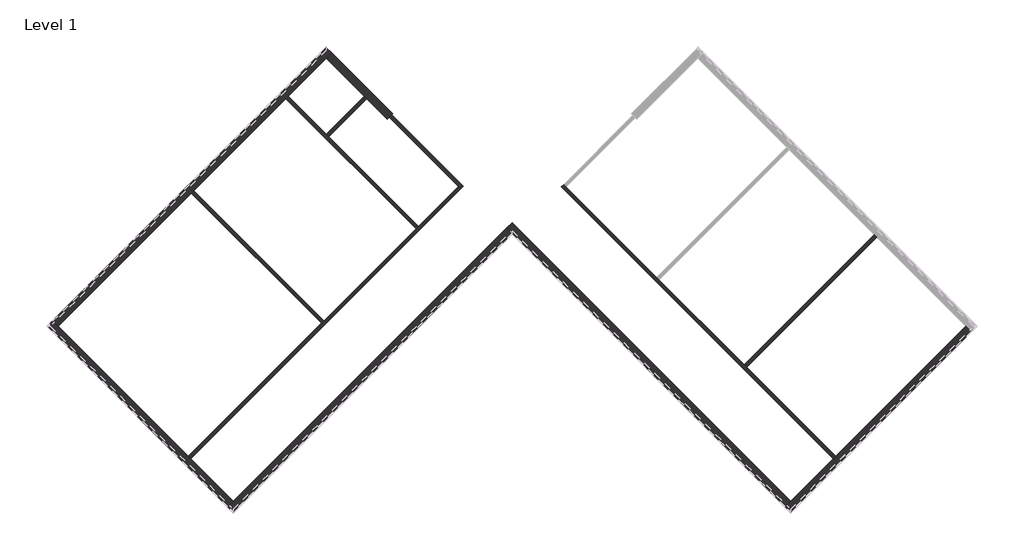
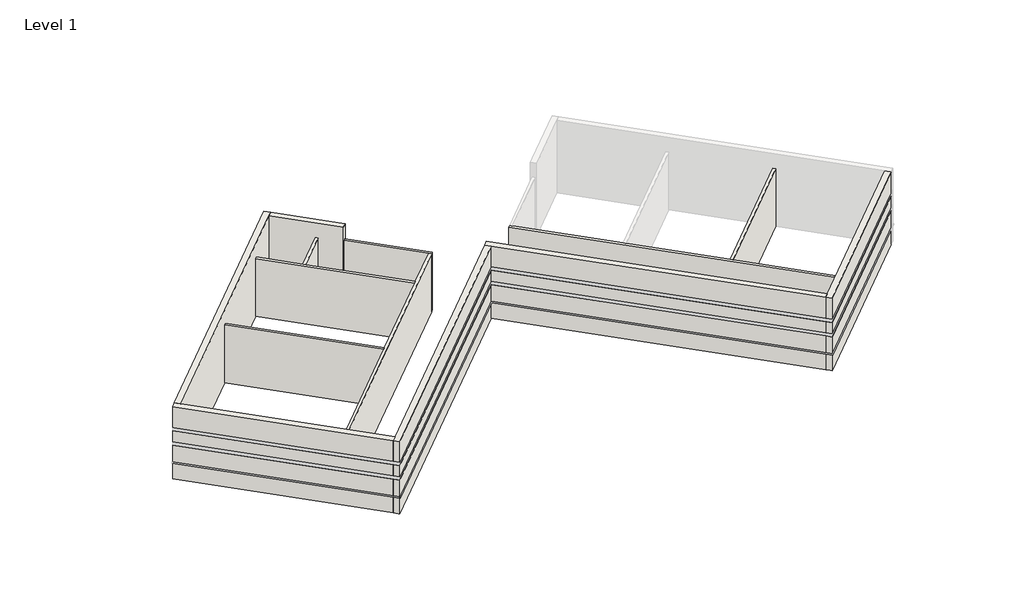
# One storey, part 1 of 2: 13 walls.
"""IFC4 building model written with IfcOpenShell, lengths in millimetres."""

from ifc_helpers import new_model, si_unit, frame, origin, origin_with_axes, place, context, project, spatial, polyline, circle_curve, outline, extrude, faceted_brep, element, save
from ifc_brep_helpers import plane_surface, cylinder_surface, revolved_surface, advanced_brep

model = new_model("IFC4")

# Units and contexts
model_context = context("Model", 3, world=origin())
ifc_project = project(units=[si_unit("LENGTHUNIT", "METRE", prefix="MILLI")], contexts=[model_context])

# Site, building, storey
site = spatial("IfcSite", under=ifc_project)
building = spatial("IfcBuilding", under=site)
storey = spatial("IfcBuildingStorey", under=building, Name="Level 1", Elevation=0.0)

# Walls
placement = place(None, origin())
element("IfcWall", 1, ObjectType="Exterior - Split Face and CMU on Mtl. Stud", at=placement, inside=storey, context=model_context, shape_type="Brep", body=[
    faceted_brep([(18186.1821115, -1357.9895101, 0.0), (12149.2049342, -7394.9666875, 0.0), (12039.1967967, -7504.974825, 0.0), (10063.54045, -9480.6311716, 0.0), (9814.3383427, -9729.833279, 0.0), (9814.3383427, -9729.833279, 1016.0), (9879.4451996, -9664.7264221, 1016.0), (9879.4451996, -9664.7264221, 1085.85), (9814.3383427, -9729.833279, 1085.85), (9814.3383427, -9729.833279, 2133.6), (9879.4451996, -9664.7264221, 2133.6), (9879.4451996, -9664.7264221, 2336.8), (9814.3383427, -9729.833279, 2336.8), (9814.3383427, -9729.833279, 3048.0), (9879.4451996, -9664.7264221, 3048.0), (9879.4451996, -9664.7264221, 3251.2), (9814.3383427, -9729.833279, 3251.2), (9814.3383427, -9729.833279, 4572.0), (10063.54045, -9480.6311716, 4572.0), (18186.1821115, -1357.9895101, 4572.0), (18435.3842189, -1607.1916175, 4572.0), (10063.54045, -9979.0353863, 4572.0), (10063.54045, -9979.0353863, 3251.2), (18435.3842189, -1607.1916175, 3251.2), (10063.54045, -9979.0353863, 0.0), (18435.3842189, -1607.1916175, 0.0), (18435.3842189, -1607.1916175, 1016.0), (10063.54045, -9979.0353863, 1016.0), (10063.54045, -9979.0353863, 1085.85), (18435.3842189, -1607.1916175, 1085.85), (18435.3842189, -1607.1916175, 2133.6), (10063.54045, -9979.0353863, 2133.6), (10063.54045, -9979.0353863, 2336.8), (18435.3842189, -1607.1916175, 2336.8), (18435.3842189, -1607.1916175, 3048.0), (10063.54045, -9979.0353863, 3048.0), (9998.4335932, -9913.9285294, 0.0), (18370.277362, -1542.0847606, 3251.2), (18370.277362, -1542.0847606, 3048.0), (18370.277362, -1542.0847606, 2336.8), (18370.277362, -1542.0847606, 2133.6), (18370.277362, -1542.0847606, 1085.85), (18370.277362, -1542.0847606, 1016.0), (18370.277362, -1542.0847606, 0.0), (10063.54045, -9848.8216726, 1085.85), (10063.54045, -9848.8216726, 1016.0), (10063.54045, -9848.8216726, 2133.6), (10063.54045, -9848.8216726, 2336.8), (10063.54045, -9848.8216726, 3048.0), (10063.54045, -9848.8216726, 3251.2)], [[[0, 1, 2, 3, 4, 5, 6, 7, 8, 9, 10, 11, 12, 13, 14, 15, 16, 17, 18, 19]], [[20, 21, 22, 23]], [[24, 25, 26, 27]], [[28, 29, 30, 31]], [[32, 33, 34, 35]], [[19, 18, 17, 21, 20]], [[21, 17, 16, 22]], [[4, 36, 24, 27, 5]], [[8, 28, 31, 9]], [[12, 32, 35, 13]], [[0, 19, 20, 23, 37, 38, 34, 33, 39, 40, 30, 29, 41, 42, 26, 25, 43]], [[4, 3, 2, 1, 0, 43, 36]], [[43, 25, 24, 36]], [[7, 44, 41, 29, 28, 8]], [[42, 45, 6, 5, 27, 26]], [[44, 45, 42, 41]], [[45, 44, 7, 6]], [[40, 46, 10, 9, 31, 30]], [[11, 47, 39, 33, 32, 12]], [[47, 46, 40, 39]], [[46, 47, 11, 10]], [[38, 48, 14, 13, 35, 34]], [[15, 49, 37, 23, 22, 16]], [[49, 48, 38, 37]], [[48, 49, 15, 14]]]),
])
element("IfcWall", 2, ObjectType="Exterior - Split Face and CMU on Mtl. Stud", at=placement, inside=storey, context=model_context, shape_type="Brep", body=[
    faceted_brep([(10063.54045, -9480.6311716, 0.0), (-2868.0283643, 3450.9376427, 0.0), (-2868.0283643, 3450.9376427, 4572.0), (10063.54045, -9480.6311716, 4572.0), (9814.3383427, -9729.833279, 4572.0), (-2868.0283643, 2952.533428, 4572.0), (-3117.2304717, 3201.7355354, 4572.0), (-3117.2304717, 3201.7355354, 0.0), (-2868.0283643, 2952.533428, 0.0), (9814.3383427, -9729.833279, 0.0), (9814.3383427, -9729.833279, 1016.0), (-2868.0283643, 2952.533428, 1016.0), (-2933.1352212, 3017.6402849, 1016.0), (-2933.1352212, 3017.6402849, 1085.85), (-2868.0283643, 2952.533428, 1085.85), (9814.3383427, -9729.833279, 1085.85), (9814.3383427, -9729.833279, 2133.6), (-2868.0283643, 2952.533428, 2133.6), (-2933.1352212, 3017.6402849, 2133.6), (-2933.1352212, 3017.6402849, 2336.8), (-2868.0283643, 2952.533428, 2336.8), (9814.3383427, -9729.833279, 2336.8), (9814.3383427, -9729.833279, 3048.0), (-2868.0283643, 2952.533428, 3048.0), (-2933.1352212, 3017.6402849, 3048.0), (-2933.1352212, 3017.6402849, 3251.2), (-2868.0283643, 2952.533428, 3251.2), (9814.3383427, -9729.833279, 3251.2), (-3052.1236148, 3266.8423923, 0.0), (9879.4451996, -9664.7264221, 3251.2), (9879.4451996, -9664.7264221, 3048.0), (9879.4451996, -9664.7264221, 2336.8), (9879.4451996, -9664.7264221, 2133.6), (9879.4451996, -9664.7264221, 1085.85), (9879.4451996, -9664.7264221, 1016.0), (9879.4451996, -9664.7264221, 0.0), (-2868.0283643, 3082.7471418, 1085.85), (-2868.0283643, 3082.7471418, 1016.0), (-2868.0283643, 3082.7471418, 2133.6), (-2868.0283643, 3082.7471418, 2336.8), (-2868.0283643, 3082.7471418, 3048.0), (-2868.0283643, 3082.7471418, 3251.2)], [[[0, 1, 2, 3]], [[4, 5, 6, 7, 8, 9, 10, 11, 12, 13, 14, 15, 16, 17, 18, 19, 20, 21, 22, 23, 24, 25, 26, 27]], [[3, 2, 6, 5, 4]], [[2, 1, 28, 7, 6]], [[0, 3, 4, 27, 29, 30, 22, 21, 31, 32, 16, 15, 33, 34, 10, 9, 35]], [[1, 0, 35, 28]], [[35, 9, 8, 7, 28]], [[13, 36, 33, 15, 14]], [[34, 37, 12, 11, 10]], [[36, 37, 34, 33]], [[37, 36, 13, 12]], [[32, 38, 18, 17, 16]], [[19, 39, 31, 21, 20]], [[39, 38, 32, 31]], [[38, 39, 19, 18]], [[30, 40, 24, 23, 22]], [[25, 41, 29, 27, 26]], [[41, 40, 30, 29]], [[40, 41, 25, 24]]]),
])
element("IfcWall", 3, ObjectType="Exterior - Split Face and CMU on Mtl. Stud", at=placement, inside=storey, context=model_context, shape_type="Brep", body=[
    faceted_brep([(-3117.2304717, 3201.7355354, 4572.0), (-15799.5971786, -9480.6311716, 4572.0), (-16048.799286, -9729.833279, 4572.0), (-15799.5971786, -9979.0353863, 4572.0), (-2868.0283643, 2952.533428, 4572.0), (-3117.2304717, 3201.7355354, 0.0), (-15799.5971786, -9480.6311716, 0.0), (-16048.799286, -9729.833279, 0.0), (-16048.799286, -9729.833279, 1016.0), (-15983.6924291, -9664.7264221, 1016.0), (-15983.6924291, -9664.7264221, 1085.85), (-16048.799286, -9729.833279, 1085.85), (-16048.799286, -9729.833279, 2133.6), (-15983.6924291, -9664.7264221, 2133.6), (-15983.6924291, -9664.7264221, 2336.8), (-16048.799286, -9729.833279, 2336.8), (-16048.799286, -9729.833279, 3048.0), (-15983.6924291, -9664.7264221, 3048.0), (-15983.6924291, -9664.7264221, 3251.2), (-16048.799286, -9729.833279, 3251.2), (-15799.5971786, -9979.0353863, 3251.2), (-2868.0283643, 2952.533428, 3251.2), (-15799.5971786, -9979.0353863, 0.0), (-2868.0283643, 2952.533428, 0.0), (-2868.0283643, 2952.533428, 1016.0), (-15799.5971786, -9979.0353863, 1016.0), (-15799.5971786, -9979.0353863, 1085.85), (-2868.0283643, 2952.533428, 1085.85), (-2868.0283643, 2952.533428, 2133.6), (-15799.5971786, -9979.0353863, 2133.6), (-15799.5971786, -9979.0353863, 2336.8), (-2868.0283643, 2952.533428, 2336.8), (-2868.0283643, 2952.533428, 3048.0), (-15799.5971786, -9979.0353863, 3048.0), (-2933.1352212, 3017.6402849, 0.0), (-15864.7040355, -9913.9285294, 0.0), (-2933.1352212, 3017.6402849, 3251.2), (-2933.1352212, 3017.6402849, 3048.0), (-2933.1352212, 3017.6402849, 2336.8), (-2933.1352212, 3017.6402849, 2133.6), (-2933.1352212, 3017.6402849, 1085.85), (-2933.1352212, 3017.6402849, 1016.0), (-15799.5971786, -9848.8216726, 1085.85), (-15799.5971786, -9848.8216726, 1016.0), (-15799.5971786, -9848.8216726, 2133.6), (-15799.5971786, -9848.8216726, 2336.8), (-15799.5971786, -9848.8216726, 3048.0), (-15799.5971786, -9848.8216726, 3251.2)], [[[0, 1, 2, 3, 4]], [[5, 6, 7, 8, 9, 10, 11, 12, 13, 14, 15, 16, 17, 18, 19, 2, 1, 0]], [[4, 3, 20, 21]], [[22, 23, 24, 25]], [[26, 27, 28, 29]], [[30, 31, 32, 33]], [[7, 6, 5, 34, 35]], [[5, 0, 4, 21, 36, 37, 32, 31, 38, 39, 28, 27, 40, 41, 24, 23, 34]], [[23, 22, 35, 34]], [[3, 2, 19, 20]], [[7, 35, 22, 25, 8]], [[11, 26, 29, 12]], [[15, 30, 33, 16]], [[10, 42, 40, 27, 26, 11]], [[41, 43, 9, 8, 25, 24]], [[42, 43, 41, 40]], [[43, 42, 10, 9]], [[39, 44, 13, 12, 29, 28]], [[14, 45, 38, 31, 30, 15]], [[45, 44, 39, 38]], [[44, 45, 14, 13]], [[37, 46, 17, 16, 33, 32]], [[18, 47, 36, 21, 20, 19]], [[47, 46, 37, 36]], [[46, 47, 18, 17]]]),
])
element("IfcWall", 4, ObjectType="Exterior - Split Face and CMU on Mtl. Stud", at=placement, inside=storey, context=model_context, shape_type="Brep", body=[
    faceted_brep([(-15799.5971786, -9480.6311716, 0.0), (-17775.2535253, -7504.974825, 0.0), (-17885.2616628, -7394.9666875, 0.0), (-23922.2388402, -1357.9895101, 0.0), (-24171.4409475, -1108.7874027, 0.0), (-24171.4409475, -1108.7874027, 1016.0), (-24106.3340906, -1173.8942596, 1016.0), (-24106.3340906, -1173.8942596, 1085.85), (-24171.4409475, -1108.7874027, 1085.85), (-24171.4409475, -1108.7874027, 2133.6), (-24106.3340906, -1173.8942596, 2133.6), (-24106.3340906, -1173.8942596, 2336.8), (-24171.4409475, -1108.7874027, 2336.8), (-24171.4409475, -1108.7874027, 3048.0), (-24106.3340906, -1173.8942596, 3048.0), (-24106.3340906, -1173.8942596, 3251.2), (-24171.4409475, -1108.7874027, 3251.2), (-24171.4409475, -1108.7874027, 4572.0), (-23922.2388402, -1357.9895101, 4572.0), (-15799.5971786, -9480.6311716, 4572.0), (-16048.799286, -9729.833279, 4572.0), (-24420.6430549, -1357.9895101, 4572.0), (-24420.6430549, -1357.9895101, 3251.2), (-16048.799286, -9729.833279, 3251.2), (-24420.6430549, -1357.9895101, 0.0), (-16048.799286, -9729.833279, 0.0), (-16048.799286, -9729.833279, 1016.0), (-24420.6430549, -1357.9895101, 1016.0), (-24420.6430549, -1357.9895101, 1085.85), (-16048.799286, -9729.833279, 1085.85), (-16048.799286, -9729.833279, 2133.6), (-24420.6430549, -1357.9895101, 2133.6), (-24420.6430549, -1357.9895101, 2336.8), (-16048.799286, -9729.833279, 2336.8), (-16048.799286, -9729.833279, 3048.0), (-24420.6430549, -1357.9895101, 3048.0), (-24355.536198, -1292.8826532, 0.0), (-15983.6924291, -9664.7264221, 3251.2), (-15983.6924291, -9664.7264221, 3048.0), (-15983.6924291, -9664.7264221, 2336.8), (-15983.6924291, -9664.7264221, 2133.6), (-15983.6924291, -9664.7264221, 1085.85), (-15983.6924291, -9664.7264221, 1016.0), (-15983.6924291, -9664.7264221, 0.0), (-24290.4293411, -1357.9895101, 1085.85), (-24290.4293411, -1357.9895101, 1016.0), (-24290.4293411, -1357.9895101, 2133.6), (-24290.4293411, -1357.9895101, 2336.8), (-24290.4293411, -1357.9895101, 3048.0), (-24290.4293411, -1357.9895101, 3251.2)], [[[0, 1, 2, 3, 4, 5, 6, 7, 8, 9, 10, 11, 12, 13, 14, 15, 16, 17, 18, 19]], [[20, 21, 22, 23]], [[24, 25, 26, 27]], [[28, 29, 30, 31]], [[32, 33, 34, 35]], [[19, 18, 17, 21, 20]], [[21, 17, 16, 22]], [[4, 36, 24, 27, 5]], [[8, 28, 31, 9]], [[12, 32, 35, 13]], [[0, 19, 20, 23, 37, 38, 34, 33, 39, 40, 30, 29, 41, 42, 26, 25, 43]], [[4, 3, 2, 1, 0, 43, 36]], [[43, 25, 24, 36]], [[7, 44, 41, 29, 28, 8]], [[42, 45, 6, 5, 27, 26]], [[44, 45, 42, 41]], [[45, 44, 7, 6]], [[40, 46, 10, 9, 31, 30]], [[11, 47, 39, 33, 32, 12]], [[47, 46, 40, 39]], [[46, 47, 11, 10]], [[38, 48, 14, 13, 35, 34]], [[15, 49, 37, 23, 22, 16]], [[49, 48, 38, 37]], [[48, 49, 15, 14]]]),
])
element("IfcWall", 5, ObjectType="Exterior - Split Face and CMU on Mtl. Stud", at=placement, inside=storey, context=model_context, shape_type="Brep", body=[
    faceted_brep([(-23922.2388402, -1357.9895101, 0.0), (-17743.7048466, 4820.5444835, 0.0), (-17633.6967091, 4930.552621, 0.0), (-13359.2125777, 9205.0367523, 0.0), (-13249.2044403, 9315.0448898, 0.0), (-11489.0742405, 11075.1750895, 0.0), (-11239.8721332, 11324.3771969, 0.0), (-11239.8721332, 11324.3771969, 1016.0), (-11304.9789901, 11259.27034, 1016.0), (-11304.9789901, 11259.27034, 1085.85), (-11239.8721332, 11324.3771969, 1085.85), (-11239.8721332, 11324.3771969, 2133.6), (-11304.9789901, 11259.27034, 2133.6), (-11304.9789901, 11259.27034, 2336.8), (-11239.8721332, 11324.3771969, 2336.8), (-11239.8721332, 11324.3771969, 3048.0), (-11304.9789901, 11259.27034, 3048.0), (-11304.9789901, 11259.27034, 3251.2), (-11239.8721332, 11324.3771969, 3251.2), (-11239.8721332, 11324.3771969, 4572.0), (-11489.0742405, 11075.1750895, 4572.0), (-23922.2388402, -1357.9895101, 4572.0), (-24171.4409475, -1108.7874027, 4572.0), (-11489.0742405, 11573.5793042, 4572.0), (-11489.0742405, 11573.5793042, 3251.2), (-24171.4409475, -1108.7874027, 3251.2), (-11489.0742405, 11573.5793042, 0.0), (-24171.4409475, -1108.7874027, 0.0), (-24171.4409475, -1108.7874027, 1016.0), (-11489.0742405, 11573.5793042, 1016.0), (-11489.0742405, 11573.5793042, 1085.85), (-24171.4409475, -1108.7874027, 1085.85), (-24171.4409475, -1108.7874027, 2133.6), (-11489.0742405, 11573.5793042, 2133.6), (-11489.0742405, 11573.5793042, 2336.8), (-24171.4409475, -1108.7874027, 2336.8), (-24171.4409475, -1108.7874027, 3048.0), (-11489.0742405, 11573.5793042, 3048.0), (-11423.9673837, 11508.4724474, 0.0), (-24106.3340906, -1173.8942596, 3251.2), (-24106.3340906, -1173.8942596, 3048.0), (-24106.3340906, -1173.8942596, 2336.8), (-24106.3340906, -1173.8942596, 2133.6), (-24106.3340906, -1173.8942596, 1085.85), (-24106.3340906, -1173.8942596, 1016.0), (-24106.3340906, -1173.8942596, 0.0), (-11489.0742405, 11443.3655905, 1085.85), (-11489.0742405, 11443.3655905, 1016.0), (-11489.0742405, 11443.3655905, 2133.6), (-11489.0742405, 11443.3655905, 2336.8), (-11489.0742405, 11443.3655905, 3048.0), (-11489.0742405, 11443.3655905, 3251.2)], [[[0, 1, 2, 3, 4, 5, 6, 7, 8, 9, 10, 11, 12, 13, 14, 15, 16, 17, 18, 19, 20, 21]], [[22, 23, 24, 25]], [[26, 27, 28, 29]], [[30, 31, 32, 33]], [[34, 35, 36, 37]], [[21, 20, 19, 23, 22]], [[23, 19, 18, 24]], [[6, 38, 26, 29, 7]], [[10, 30, 33, 11]], [[14, 34, 37, 15]], [[0, 21, 22, 25, 39, 40, 36, 35, 41, 42, 32, 31, 43, 44, 28, 27, 45]], [[6, 5, 4, 3, 2, 1, 0, 45, 38]], [[45, 27, 26, 38]], [[9, 46, 43, 31, 30, 10]], [[44, 47, 8, 7, 29, 28]], [[46, 47, 44, 43]], [[47, 46, 9, 8]], [[42, 48, 12, 11, 33, 32]], [[13, 49, 41, 35, 34, 14]], [[49, 48, 42, 41]], [[48, 49, 13, 12]], [[40, 50, 16, 15, 37, 36]], [[17, 51, 39, 25, 24, 18]], [[51, 50, 40, 39]], [[50, 51, 17, 16]]]),
])
element("IfcWall", 6, ObjectType="Exterior - Split Face and CMU on Mtl. Stud", at=placement, inside=storey, context=model_context, shape_type="AdvancedBrep", body=[
    advanced_brep(
    [(-11489.0742405, 11075.1750895, 0.0), (-9728.9440408, 9315.0448898, 0.0), (-9618.9359033, 9205.0367523, 0.0), (-8658.0122729, 8244.1131219, 0.0), (-8658.0122729, 8244.1131219, 4572.0), (-11489.0742405, 11075.1750895, 4572.0), (-11239.8721332, 11324.3771969, 4572.0), (-8662.486224, 8746.9912878, 4572.0), (-8413.2817722, 8497.7868359, 4572.0), (-8413.2817722, 8497.7868359, 0.0), (-8662.486224, 8746.9912878, 0.0), (-11239.8721332, 11324.3771969, 0.0), (-11239.8721332, 11324.3771969, 1016.0), (-8662.486224, 8746.9912878, 1016.0), (-8597.3787742, 8681.8838379, 1016.0), (-8597.3787742, 8681.8838379, 1085.85), (-8662.486224, 8746.9912878, 1085.85), (-11239.8721332, 11324.3771969, 1085.85), (-11239.8721332, 11324.3771969, 2133.6), (-8662.486224, 8746.9912878, 2133.6), (-8597.3787742, 8681.8838379, 2133.6), (-8597.3787742, 8681.8838379, 2336.8), (-8662.486224, 8746.9912878, 2336.8), (-11239.8721332, 11324.3771969, 2336.8), (-11239.8721332, 11324.3771969, 3048.0), (-8662.486224, 8746.9912878, 3048.0), (-8597.3787742, 8681.8838379, 3048.0), (-8597.3787742, 8681.8838379, 3251.2), (-8662.486224, 8746.9912878, 3251.2), (-11239.8721332, 11324.3771969, 3251.2), (-8478.2967797, 8432.5881297, 0.0), (-11304.9789901, 11259.27034, 3251.2), (-11304.9789901, 11259.27034, 3048.0), (-11304.9789901, 11259.27034, 2336.8), (-11304.9789901, 11259.27034, 2133.6), (-11304.9789901, 11259.27034, 1085.85), (-11304.9789901, 11259.27034, 1016.0), (-11304.9789901, 11259.27034, 0.0), (-8662.3967205, 8616.6880705, 1085.85), (-8662.3967205, 8616.6880705, 1016.0), (-8662.3967205, 8616.6880705, 2336.8), (-8662.3967205, 8616.6880705, 2133.6), (-8662.3967205, 8616.6880705, 3251.2), (-8662.3967205, 8616.6880705, 3048.0)],
    [
        (0, 1),
        (1, 2),
        (2, 3),
        (3, 4),
        (4, 5),
        (5, 0),
        (6, 7),
        (7, 8),
        (8, 9),
        (9, 10),
        (10, 11),
        (11, 12),
        (12, 13),
        (13, 14),
        (14, 15),
        (15, 16),
        (16, 17),
        (17, 18),
        (18, 19),
        (19, 20),
        (20, 21),
        (21, 22),
        (22, 23),
        (23, 24),
        (24, 25),
        (25, 26),
        (26, 27),
        (27, 28),
        (28, 29),
        (29, 6),
        (4, 8, circle_curve(frame((-2868.0283643, 2903.1420194, 4572.0), z_axis=(0.0, 0.0, -1.0), x_axis=(1.0, 0.0, 0.0)), 7877.175)),
        (6, 5),
        (3, 30, circle_curve(frame((-2868.0283643, 2903.1420194, 0.0), z_axis=(0.0, 0.0, -1.0), x_axis=(1.0, 0.0, 0.0)), 7877.175)),
        (30, 9, circle_curve(frame((-2868.0283643, 2903.1420194, 0.0), z_axis=(0.0, 0.0, -1.0), x_axis=(1.0, 0.0, 0.0)), 7877.175)),
        (29, 31),
        (31, 32),
        (32, 24),
        (23, 33),
        (33, 34),
        (34, 18),
        (17, 35),
        (35, 36),
        (36, 12),
        (11, 37),
        (37, 0),
        (37, 30),
        (38, 39),
        (39, 36),
        (35, 38),
        (15, 38, circle_curve(frame((-2868.0283643, 2903.1420194, 1085.85), z_axis=(0.0, 0.0, 1.0), x_axis=(-0.7040995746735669, 0.7101012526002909, 0.0)), 8137.525)),
        (39, 14, circle_curve(frame((-2868.0283643, 2903.1420194, 1016.0), z_axis=(0.0, 0.0, -1.0), x_axis=(-0.7040995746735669, 0.7101012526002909, 0.0)), 8137.525)),
        (40, 41),
        (41, 34),
        (33, 40),
        (41, 20, circle_curve(frame((-2868.0283643, 2903.1420194, 2133.6), z_axis=(0.0, 0.0, -1.0), x_axis=(-0.7120553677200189, 0.7021233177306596, 0.0)), 8137.525)),
        (40, 21, circle_curve(frame((-2868.0283643, 2903.1420194, 2336.8), z_axis=(0.0, 0.0, -1.0), x_axis=(-0.7120553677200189, 0.7021233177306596, 0.0)), 8137.525)),
        (42, 43),
        (43, 32),
        (31, 42),
        (43, 26, circle_curve(frame((-2868.0283643, 2903.1420194, 3048.0), z_axis=(0.0, 0.0, -1.0), x_axis=(-0.7120553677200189, 0.7021233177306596, 0.0)), 8137.525)),
        (42, 27, circle_curve(frame((-2868.0283643, 2903.1420194, 3251.2), z_axis=(0.0, 0.0, -1.0), x_axis=(-0.7120553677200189, 0.7021233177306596, 0.0)), 8137.525)),
    ],
    [
        plane_surface(frame((-11738.2763479, 11324.3771969, 0.0), z_axis=(-0.7071067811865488, -0.7071067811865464, 0.0), x_axis=(0.7071067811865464, -0.7071067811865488, 0.0))),
        plane_surface(frame((-11489.0742405, 11573.5793042, 0.0), z_axis=(0.7071067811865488, 0.7071067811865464, 0.0), x_axis=(-0.7071067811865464, 0.7071067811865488, 0.0))),
        plane_surface(frame((-8786.2632499, 8372.3640989, 4572.0), z_axis=(0.0, 0.0, 1.0), x_axis=(0.7071067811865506, 0.7071067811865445, 0.0))),
        revolved_surface(polyline([(5009.146635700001, 2903.1420194, 0.0), (5009.146635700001, 2903.1420194, 4572.0)]), (-2868.0283643, 2903.1420194, 0.0), (0.0, 0.0, -1.0)),
        plane_surface(frame((-24171.4409475, -1607.1916175, 0.0), z_axis=(-0.7071067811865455, 0.7071067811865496, 0.0), x_axis=(0.7071067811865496, 0.7071067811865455, 0.0))),
        plane_surface(frame((-11613.6752942, 11199.7761432, 0.0), z_axis=(0.0, 0.0, -1.0000000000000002), x_axis=(0.7071067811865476, 0.7071067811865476, 0.0))),
        plane_surface(frame((0.0, 0.0, 0.0), z_axis=(0.0, 0.0, -1.0), x_axis=(1.0, 0.0, 0.0))),
        plane_surface(frame((-11489.0742405, 11443.3655905, 1016.0), z_axis=(0.7071067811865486, 0.7071067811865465, 0.0), x_axis=(0.7071067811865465, -0.7071067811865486, 0.0))),
        plane_surface(frame((-2868.0283643, 2903.1420194, 1085.85), z_axis=(0.0, 0.0, -1.0), x_axis=(-0.7040995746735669, 0.7101012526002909, 0.0))),
        plane_surface(frame((-2868.0283643, 2903.1420194, 1016.0), z_axis=(0.0, 0.0, 1.0), x_axis=(-0.7040995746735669, 0.7101012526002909, 0.0))),
        cylinder_surface(frame((-2868.0283643, 2903.1420194, 1016.0), z_axis=(0.0, 0.0, -1.0), x_axis=(-0.7040995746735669, 0.7101012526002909, 0.0)), 8137.525),
        plane_surface(frame((-11489.0742405, 11443.3655905, 2133.6), z_axis=(0.7071067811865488, 0.7071067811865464, 0.0), x_axis=(0.7071067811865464, -0.7071067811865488, 0.0))),
        plane_surface(frame((-2868.0283643, 2903.1420194, 2133.6), z_axis=(0.0, 0.0, 1.0), x_axis=(-0.7120553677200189, 0.7021233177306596, 0.0))),
        cylinder_surface(frame((-2868.0283643, 2903.1420194, 2133.6), z_axis=(0.0, 0.0, -1.0), x_axis=(-0.7120553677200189, 0.7021233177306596, 0.0)), 8137.525),
        plane_surface(frame((-2868.0283643, 2903.1420194, 2336.8), z_axis=(0.0, 0.0, -1.0), x_axis=(-0.7120553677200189, 0.7021233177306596, 0.0))),
        plane_surface(frame((-11489.0742405, 11443.3655905, 3048.0), z_axis=(0.7071067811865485, 0.7071067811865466, 0.0), x_axis=(0.7071067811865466, -0.7071067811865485, 0.0))),
        plane_surface(frame((-2868.0283643, 2903.1420194, 3048.0), z_axis=(0.0, 0.0, 1.0), x_axis=(-0.7120553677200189, 0.7021233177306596, 0.0))),
        cylinder_surface(frame((-2868.0283643, 2903.1420194, 3048.0), z_axis=(0.0, 0.0, -1.0), x_axis=(-0.7120553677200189, 0.7021233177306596, 0.0)), 8137.525),
        plane_surface(frame((-2868.0283643, 2903.1420194, 3251.2), z_axis=(0.0, 0.0, -1.0), x_axis=(-0.7120553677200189, 0.7021233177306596, 0.0))),
    ],
    [
        (0, [[1, 2, 3, 4, 5, 6]]),
        (1, [[7, 8, 9, 10, 11, 12, 13, 14, 15, 16, 17, 18, 19, 20, 21, 22, 23, 24, 25, 26, 27, 28, 29, 30]]),
        (2, [[-5, 31, -8, -7, 32]]),
        (3, [[-4, 33, 34, -9, -31]]),
        (4, [[-6, -32, -30, 35, 36, 37, -24, 38, 39, 40, -18, 41, 42, 43, -12, 44, 45]]),
        (5, [[-3, -2, -1, -45, 46, -33]]),
        (6, [[-44, -11, -10, -34, -46]]),
        (7, [[47, 48, -42, 49]]),
        (8, [[50, -49, -41, -17, -16]]),
        (9, [[-48, 51, -14, -13, -43]]),
        (10, [[-47, -50, -15, -51]]),
        (11, [[52, 53, -39, 54]]),
        (12, [[-53, 55, -20, -19, -40]]),
        (13, [[-52, 56, -21, -55]]),
        (14, [[-56, -54, -38, -23, -22]]),
        (15, [[57, 58, -36, 59]]),
        (16, [[-58, 60, -26, -25, -37]]),
        (17, [[-57, 61, -27, -60]]),
        (18, [[-61, -59, -35, -29, -28]]),
    ],
),
])
element("IfcWall", 7, ObjectType="Interior - 6 1/8\" Partition (2-hr)", at=placement, inside=storey, context=model_context, shape_type="Brep", body=[
    faceted_brep([(-17775.2535253, -7504.974825, 0.0), (-5238.5804157, 5031.6982846, 0.0), (-5238.5804157, 5031.6982846, 3657.6), (-17775.2535253, -7504.974825, 3657.6), (-17885.2616628, -7394.9666875, 0.0), (-17885.2616628, -7394.9666875, 3657.6), (-11706.7276692, -1216.4326939, 3657.6), (-11596.7195317, -1106.4245564, 3657.6), (-7322.2354004, 3168.0595749, 3657.6), (-7212.2272629, 3278.0677124, 3657.6), (-5348.5885532, 5141.7064221, 3657.6), (-5348.5885532, 5141.7064221, 0.0), (-7212.2272629, 3278.0677124, 0.0), (-7322.2354004, 3168.0595749, 0.0), (-11596.7195317, -1106.4245564, 0.0), (-11706.7276692, -1216.4326939, 0.0)], [[[0, 1, 2, 3]], [[4, 5, 6, 7, 8, 9, 10, 11, 12, 13, 14, 15]], [[1, 0, 4, 15, 14, 13, 12, 11]], [[3, 2, 10, 9, 8, 7, 6, 5]], [[0, 3, 5, 4]], [[2, 1, 11, 10]]]),
])
element("IfcWall", 8, ObjectType="Interior - 6 1/8\" Partition (2-hr)", at=placement, inside=storey, context=model_context, shape_type="Brep", body=[
    faceted_brep([(-7212.2272629, 3278.0677124, 0.0), (-11379.066103, 7444.9065526, 0.0), (-11489.0742405, 7554.9146901, 0.0), (-13249.2044403, 9315.0448898, 0.0), (-13249.2044403, 9315.0448898, 3657.6), (-11489.0742405, 7554.9146901, 3657.6), (-11379.066103, 7444.9065526, 3657.6), (-7212.2272629, 3278.0677124, 3657.6), (-7322.2354004, 3168.0595749, 0.0), (-7322.2354004, 3168.0595749, 3657.6), (-13359.2125777, 9205.0367523, 3657.6), (-13359.2125777, 9205.0367523, 0.0)], [[[0, 1, 2, 3, 4, 5, 6, 7]], [[8, 9, 10, 11]], [[3, 2, 1, 0, 8, 11]], [[7, 6, 5, 4, 10, 9]], [[4, 3, 11, 10]], [[0, 7, 9, 8]]]),
])
element("IfcWall", 9, ObjectType="Interior - 6 1/8\" Partition (2-hr)", at=placement, inside=storey, context=model_context, shape_type="AdvancedBrep", body=[
    advanced_brep(
    [(-5128.5722782, 5141.7064221, 0.0), (-8449.0111375, 8462.1452813, 0.0), (-8449.0111375, 8462.1452813, 3657.6), (-5128.5722782, 5141.7064221, 3657.6), (-5238.5804157, 5031.6982846, 0.0), (-5238.5804157, 5031.6982846, 3657.6), (-5348.5885532, 5141.7064221, 3657.6), (-8557.7157352, 8350.8336041, 3657.6), (-8557.7157352, 8350.8336041, 0.0), (-5348.5885532, 5141.7064221, 0.0)],
    [
        (0, 1),
        (1, 2),
        (2, 3),
        (3, 0),
        (4, 5),
        (5, 6),
        (6, 7),
        (7, 8),
        (8, 9),
        (9, 4),
        (0, 4),
        (8, 1, circle_curve(frame((-2868.0283643, 2903.1420194, 0.0), z_axis=(0.0, 0.0, -1.0), x_axis=(1.0, 0.0, 0.0)), 7877.175)),
        (2, 7, circle_curve(frame((-2868.0283643, 2903.1420194, 3657.6), z_axis=(0.0, 0.0, 1.0), x_axis=(1.0, 0.0, 0.0)), 7877.175)),
        (5, 3),
    ],
    [
        plane_surface(frame((-5183.576347, 5196.7104908, 0.0), z_axis=(0.7071067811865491, 0.7071067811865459, 0.0), x_axis=(-0.7071067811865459, 0.7071067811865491, 0.0))),
        plane_surface(frame((-5293.5844845, 5086.7023533, 0.0), z_axis=(-0.7071067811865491, -0.7071067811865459, 0.0), x_axis=(0.7071067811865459, -0.7071067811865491, 0.0))),
        plane_surface(frame((-5183.576347, 5196.7104908, 0.0), z_axis=(0.0, 0.0, -1.0), x_axis=(-0.707106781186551, -0.7071067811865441, 0.0))),
        plane_surface(frame((-8573.2406241, 8586.374768, 3657.6), z_axis=(0.0, 0.0, 1.0), x_axis=(-0.707106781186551, -0.7071067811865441, 0.0))),
        plane_surface(frame((-17899.854579, -7629.5758786, 0.0), z_axis=(0.7071067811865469, -0.7071067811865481, 0.0), x_axis=(0.7071067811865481, 0.7071067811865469, 0.0))),
        cylinder_surface(frame((-2868.0283643, 2903.1420194, 0.0), z_axis=(0.0, 0.0, -1.0), x_axis=(1.0, 0.0, 0.0)), 7877.175),
    ],
    [
        (0, [[1, 2, 3, 4]]),
        (1, [[5, 6, 7, 8, 9, 10]]),
        (2, [[-1, 11, -10, -9, 12]]),
        (3, [[-3, 13, -7, -6, 14]]),
        (4, [[-4, -14, -5, -11]]),
        (5, [[-2, -12, -8, -13]]),
    ],
),
])
element("IfcWall", 10, ObjectType="Interior - 6 1/8\" Partition (2-hr)", at=placement, inside=storey, context=model_context, shape_type="SweptSolid", body=[
    extrude(outline(polyline([(-11489.0742405, 7554.9146901), (-9728.9440408, 9315.0448898), (-9618.9359033, 9205.0367523), (-11379.066103, 7444.9065526), (-11489.0742405, 7554.9146901)])), origin_with_axes(), (0.0, 0.0, 1.0), 3657.6),
])
element("IfcWall", 11, ObjectType="Interior - 6 1/8\" Partition (2-hr)", at=placement, inside=storey, context=model_context, shape_type="SweptSolid", body=[
    extrude(outline(polyline([(-17633.6967091, 4930.552621), (-11596.7195317, -1106.4245564), (-11706.7276692, -1216.4326939), (-17743.7048466, 4820.5444835), (-17633.6967091, 4930.552621)])), origin_with_axes(), (0.0, 0.0, 1.0), 3657.6),
])
element("IfcWall", 12, ObjectType="Interior - 6 1/8\" Partition (2-hr)", at=placement, inside=storey, context=model_context, shape_type="Brep", body=[
    faceted_brep([(12149.2049342, -7394.9666875, 0.0), (8018.2871185, -3264.0488718, 0.0), (7908.278981, -3154.0407343, 0.0), (3956.9662877, 797.271959, 0.0), (3846.9581502, 907.2800964, 0.0), (-353.5566504, 5107.7948971, 0.0), (-463.5647879, 5217.8030346, 0.0), (-463.5647879, 5217.8030346, 3657.6), (-353.5566504, 5107.7948971, 3657.6), (3846.9581502, 907.2800964, 3657.6), (3956.9662877, 797.271959, 3657.6), (7908.278981, -3154.0407343, 3657.6), (8018.2871185, -3264.0488718, 3657.6), (12149.2049342, -7394.9666875, 3657.6), (12039.1967967, -7504.974825, 0.0), (12039.1967967, -7504.974825, 3657.6), (-573.5729254, 5107.7948971, 3657.6), (-573.5729254, 5107.7948971, 0.0)], [[[0, 1, 2, 3, 4, 5, 6, 7, 8, 9, 10, 11, 12, 13]], [[14, 15, 16, 17]], [[6, 5, 4, 3, 2, 1, 0, 14, 17]], [[13, 12, 11, 10, 9, 8, 7, 16, 15]], [[7, 6, 17, 16]], [[0, 13, 15, 14]]]),
])
element("IfcWall", 13, ObjectType="Interior - 6 1/8\" Partition (2-hr)", at=placement, inside=storey, context=model_context, shape_type="SweptSolid", body=[
    extrude(outline(polyline([(7908.278981, -3154.0407343), (13945.2561584, 2882.9364431), (14055.2642958, 2772.9283056), (8018.2871185, -3264.0488718), (7908.278981, -3154.0407343)])), origin_with_axes(), (0.0, 0.0, 1.0), 3657.6),
])

save(model, "model.ifc")
